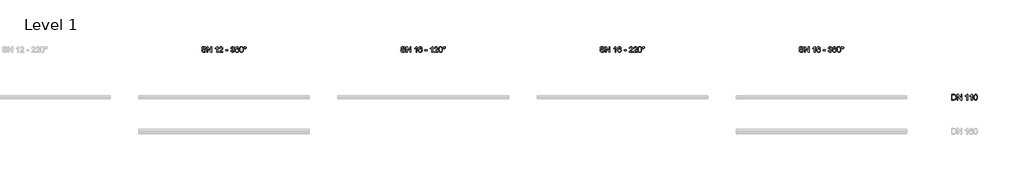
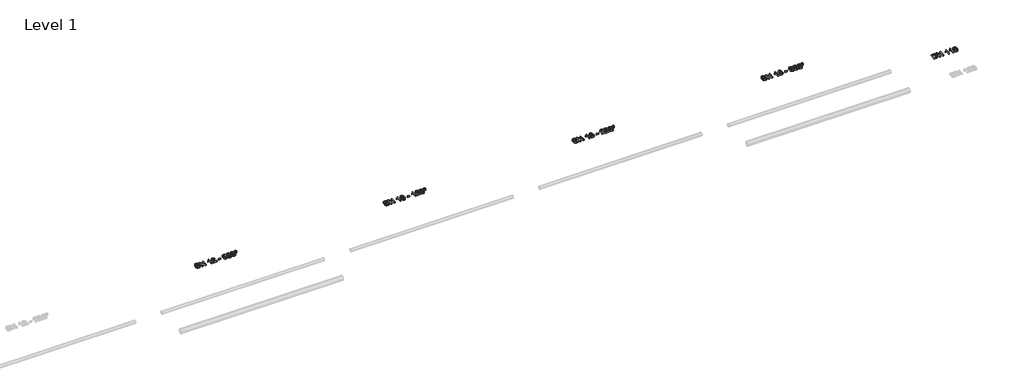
# One storey, part 9 of 9: 5 proxies.
"""IFC4 building model written with IfcOpenShell, lengths in millimetres."""

from ifc_helpers import new_model, si_unit, origin, origin_with_axes, place, context, project, spatial, polyline, outline, extrude, element, save

model = new_model("IFC4")

# Units and contexts
model_context = context("Model", 3, world=origin())
ifc_project = project(units=[si_unit("LENGTHUNIT", "METRE", prefix="MILLI")], contexts=[model_context])

# Site, building, storey
site = spatial("IfcSite", under=ifc_project)
building = spatial("IfcBuilding", under=site)
storey = spatial("IfcBuildingStorey", under=building, Name="Level 1", Elevation=0.0)

# Proxies
placement = place(None, origin())
element("IfcBuildingElementProxy", 1, Name="200mm Arial", ObjectType="200mm Arial", at=placement, inside=storey, context=model_context, shape_type="SweptSolid", body=[
    extrude(outline(polyline([(69180.9483219, 2231.0128426), (69206.0623994, 2231.0128426), (69214.1558033, 2205.8742396), (69222.2859954, 2196.983758), (69233.9233292, 2189.9817374), (69248.1480997, 2185.4383947), (69264.0406019, 2183.9239472), (69290.2828509, 2188.5102094), (69307.2299481, 2201.1162991), (69312.797229, 2217.9652945), (69308.6278997, 2233.6370675), (69302.2758039, 2239.8358791), (69291.5581751, 2245.0414093), (69254.9907048, 2254.6308667), (69215.6273313, 2267.0162272), (69203.1254748, 2275.4652503), (69194.2656501, 2285.7046325), (69188.9865435, 2297.5136446), (69187.2268413, 2310.6715573), (69189.4034764, 2325.3807057), (69195.9333818, 2339.0965728), (69206.6448793, 2350.7216438), (69221.3662904, 2359.1584042), (69239.0368889, 2364.2903581), (69258.5959483, 2366.0010093), (69279.7859513, 2364.2106503), (69298.3272038, 2358.8395732), (69313.5575184, 2349.9981425), (69324.8147075, 2337.796723), (69331.9393554, 2322.9956041), (69334.7720468, 2306.3550752), (69309.6579693, 2306.3550752), (69305.0471816, 2321.3401351), (69295.4331988, 2332.1558658), (69280.4113507, 2338.7041653), (69259.576967, 2340.8869318), (69238.252074, 2338.7286908), (69223.6226333, 2332.2539676), (69215.1613474, 2322.725824), (69212.3409188, 2311.4073212), (69214.3397443, 2301.7565502), (69220.3362208, 2293.9942401), (69234.5119404, 2287.0535332), (69261.3428006, 2279.9656734), (69305.7829456, 2267.3595837), (69320.0996866, 2258.2483729), (69330.0876827, 2247.0034466), (69335.9554006, 2233.7474321), (69337.9113065, 2218.6029566), (69335.661095, 2203.121256), (69328.9104604, 2188.5592603), (69317.9353142, 2176.026747), (69303.0115679, 2166.6334934), (69285.0650579, 2160.7657756), (69265.0216205, 2158.8098696), (69240.4164464, 2160.9190598), (69220.1645426, 2167.2466301), (69204.0329171, 2177.8171061), (69191.788578, 2192.6550132), (69183.9281661, 2210.7302819), (69180.9483219, 2231.0128426)])), origin_with_axes(), (0.0, 0.0, 1.0), 50.0),
    extrude(outline(polyline([(69375.5824228, 2161.9491293), (69375.5824228, 2362.8617496), (69402.4623339, 2362.8617496), (69507.4313299, 2203.6914731), (69507.4313299, 2362.8617496), (69532.5454074, 2362.8617496), (69532.5454074, 2161.9491293), (69505.6654963, 2161.9491293), (69400.6965003, 2321.1684569), (69400.6965003, 2161.9491293), (69375.5824228, 2161.9491293)])), origin_with_axes(), (0.0, 0.0, 1.0), 50.0),
    extrude(outline(polyline([(69739.7365471, 2161.9491293), (69714.6224696, 2161.9491293), (69714.6224696, 2318.5197065), (69690.8327672, 2301.5726092), (69664.3943145, 2288.8929431), (69664.3943145, 2312.6335946), (69701.2070395, 2336.1289913), (69714.6776519, 2349.7038369), (69723.5497393, 2362.8617496), (69739.7365471, 2362.8617496), (69739.7365471, 2161.9491293)])), origin_with_axes(), (0.0, 0.0, 1.0), 50.0),
    extrude(outline(polyline([(69928.0921286, 2187.0632069), (69928.0921286, 2161.9491293), (69796.2432216, 2161.9491293), (69798.9410229, 2179.2641086), (69814.1958629, 2205.9232905), (69845.6375108, 2235.0350191), (69888.9985353, 2276.8754646), (69897.1287274, 2291.2964388), (69899.8387914, 2305.3250056), (69897.2820115, 2317.9004385), (69889.6116719, 2328.3544185), (69877.821054, 2335.3993587), (69862.9034391, 2337.7476721), (69847.2377975, 2335.454541), (69835.0670348, 2328.5751477), (69827.2127542, 2317.6490524), (69824.4965588, 2303.2158155), (69799.3824813, 2306.3550752), (69805.4709283, 2330.6475496), (69818.6349723, 2348.3917245), (69838.1879004, 2359.2442434), (69863.4429993, 2362.8617496), (69888.8820393, 2358.8395732), (69908.3981792, 2346.7730437), (69920.8141965, 2328.746826), (69924.9528689, 2306.8455845), (69920.4892341, 2283.0313567), (69905.6513269, 2258.4077885), (69869.6724678, 2223.9985592), (69840.7814684, 2199.8409748), (69829.450703, 2187.0632069), (69928.0921286, 2187.0632069)])), origin_with_axes(), (0.0, 0.0, 1.0), 50.0),
    extrude(outline(polyline([(70025.4091791, 2221.5950635), (70025.4091791, 2246.709141), (70103.8906714, 2246.709141), (70103.8906714, 2221.5950635), (70025.4091791, 2221.5950635)])), origin_with_axes(), (0.0, 0.0, 1.0), 50.0),
    extrude(outline(polyline([(70204.3469815, 2215.3165441), (70229.4610591, 2218.4558038), (70235.0835222, 2202.6736662), (70243.3179476, 2192.0173511), (70254.5690053, 2185.9472982), (70269.2413655, 2183.9239472), (70286.4582429, 2186.7075876), (70299.7510456, 2195.0585089), (70308.2491197, 2207.5174458), (70311.0818111, 2222.6251331), (70308.2736452, 2236.9663995), (70299.8491475, 2248.5976019), (70287.095905, 2256.3047297), (70271.3015047, 2258.8737723), (70253.6922198, 2256.1269201), (70256.488123, 2281.2409976), (70260.5102995, 2280.946692), (70275.5566731, 2282.7493138), (70289.0088914, 2288.1571792), (70298.5002468, 2297.3051781), (70301.664032, 2310.3282007), (70299.3709009, 2321.1745882), (70292.4915076, 2329.9730993), (70281.994608, 2335.8040289), (70268.848958, 2337.7476721), (70255.6787826, 2335.7856348), (70244.9121029, 2329.8995229), (70237.0516909, 2320.0893363), (70232.6003188, 2306.3550752), (70207.4862412, 2309.4943349), (70214.8806693, 2332.0455012), (70228.038582, 2348.8822338), (70246.0402743, 2359.3668707), (70267.9660412, 2362.8617496), (70283.7543102, 2361.1388356), (70298.2549922, 2355.9700936), (70310.4809372, 2347.815376), (70319.4449951, 2337.1345354), (70324.9448309, 2324.8288827), (70326.7781095, 2311.7997287), (70325.0368014, 2299.6596229), (70319.8128771, 2288.6476885), (70311.1799129, 2279.2666976), (70299.2114854, 2272.0194223), (70314.9323093, 2265.6673265), (70326.5819058, 2254.8515959), (70333.7923929, 2240.1608415), (70336.1958886, 2222.1836747), (70331.3888972, 2197.7072593), (70316.967923, 2177.2530203), (70295.2015716, 2163.4206573), (70268.3584487, 2158.8098696), (70244.078237, 2162.746207), (70224.3107111, 2174.555219), (70210.5641873, 2192.618225), (70204.3469815, 2215.3165441)])), origin_with_axes(), (0.0, 0.0, 1.0), 50.0),
    extrude(outline(polyline([(70486.8803538, 2309.4943349), (70461.7662763, 2306.3550752), (70452.2503954, 2327.2998234), (70440.8583162, 2335.1357099), (70427.0872669, 2337.7476721), (70404.425736, 2331.6653564), (70394.9895628, 2322.057505), (70387.282435, 2308.8321473), (70382.0769048, 2290.1253478), (70380.1455243, 2264.0731712), (70390.2193596, 2275.8270009), (70402.2920204, 2284.1104772), (70415.6890564, 2289.0217018), (70429.7360173, 2290.6587767), (70452.9371084, 2286.1828791), (70472.4103287, 2272.7551863), (70485.6172923, 2252.2396337), (70490.0196135, 2226.5001568), (70487.9472116, 2208.5168586), (70481.7300059, 2191.8456728), (70471.8830312, 2177.7067415), (70458.9213222, 2167.3202065), (70443.4334902, 2160.9374539), (70426.0081464, 2158.8098696), (70397.5156858, 2164.4507269), (70374.8234981, 2181.3732987), (70366.1644756, 2194.4821604), (70359.9794596, 2211.2453167), (70355.0314468, 2255.7345126), (70360.5251512, 2305.7542013), (70367.3922818, 2324.8319484), (70377.0062646, 2339.9549641), (70387.4265221, 2349.9766828), (70399.50838, 2357.1350532), (70428.6568967, 2362.8617496), (70450.6930282, 2359.3178198), (70468.3391013, 2348.6860301), (70480.6999363, 2331.8002465), (70486.8803538, 2309.4943349)]), holes=[polyline([(70380.1455243, 2226.8925642), (70385.9580598, 2205.1384756), (70401.4091036, 2189.3440752), (70424.0461091, 2183.9239472), (70440.6191929, 2186.7321131), (70453.6483469, 2195.1566108), (70462.0912387, 2208.4003626), (70464.905536, 2225.6662909), (70462.1280269, 2242.2393748), (70453.7954997, 2254.8761213), (70440.5456165, 2262.8775547), (70423.0160395, 2265.5446992), (70406.4674811, 2262.8775547), (70392.6289867, 2254.8761213), (70383.2663899, 2242.5459431), (70380.1455243, 2226.8925642)])]), origin_with_axes(), (0.0, 0.0, 1.0), 50.0),
    extrude(outline(polyline([(70511.9944314, 2260.7867587), (70513.8399727, 2292.9457765), (70519.3765967, 2318.5932829), (70528.5491212, 2338.1216855), (70541.3023637, 2351.9233917), (70557.7282947, 2360.1271601), (70577.9188849, 2362.8617496), (70593.3944542, 2361.2430689), (70607.2513427, 2356.3870265), (70618.8396255, 2348.483695), (70627.5093779, 2337.7231466), (70639.2816017, 2307.9982814), (70643.8433384, 2260.7867587), (70642.0161912, 2228.811682), (70636.5347495, 2203.2254892), (70627.4174074, 2183.6786925), (70614.682559, 2169.821804), (70598.2198397, 2161.5628532), (70577.9188849, 2158.8098696), (70551.8237887, 2163.5923356), (70532.0072119, 2177.9397334), (70523.2516204, 2193.0688805), (70516.9976265, 2211.919767), (70511.9944314, 2260.7867587)]), holes=[polyline([(70537.1085089, 2260.8358096), (70540.0515649, 2221.3314147), (70548.8807328, 2198.4675487), (70562.0263827, 2187.5598476), (70577.9188849, 2183.9239472), (70593.8113871, 2187.5721103), (70606.9570371, 2198.5165997), (70615.7862049, 2221.3927284), (70618.7292609, 2260.8358096), (70615.8843068, 2299.4511564), (70607.3494445, 2322.492832), (70594.22832, 2333.9339621), (70577.6245793, 2337.7476721), (70561.9037554, 2334.3876832), (70549.2731402, 2324.3077165), (70540.1496667, 2299.8313011), (70537.1085089, 2260.8358096)])]), origin_with_axes(), (0.0, 0.0, 1.0), 50.0),
    extrude(outline(polyline([(70672.0966757, 2328.378944), (70674.861922, 2342.8612318), (70683.157661, 2355.0136004), (70695.3284237, 2363.2541571), (70709.7187411, 2366.0010093), (70724.2746053, 2363.2541571), (70736.4514994, 2355.0136004), (70744.6920561, 2342.8612318), (70747.4389083, 2328.378944), (70744.673662, 2313.9150502), (70736.377923, 2301.719762), (70724.1826348, 2293.4240231), (70709.7187411, 2290.6587767), (70695.3284237, 2293.405629), (70683.157661, 2301.6461856), (70674.861922, 2313.8230797), (70672.0966757, 2328.378944)]), holes=[polyline([(70687.7929741, 2328.329893), (70689.4055236, 2319.8808699), (70694.2431718, 2312.7807474), (70701.3616884, 2307.9614932), (70709.8168429, 2306.3550752), (70718.198421, 2307.9614932), (70725.2924122, 2312.7807474), (70730.1300604, 2319.8808699), (70731.7426098, 2328.329893), (70730.1300604, 2336.7789162), (70725.2924122, 2343.8790387), (70718.198421, 2348.6982928), (70709.8168429, 2350.3047109), (70701.3616884, 2348.6982928), (70694.2431718, 2343.8790387), (70689.4055236, 2336.7789162), (70687.7929741, 2328.329893)])]), origin_with_axes(), (0.0, 0.0, 1.0), 50.0),
])
element("IfcBuildingElementProxy", 2, Name="200mm Arial", ObjectType="200mm Arial", at=placement, inside=storey, context=model_context, shape_type="SweptSolid", body=[
    extrude(outline(polyline([(76180.9483219, 2231.0128426), (76206.0623994, 2231.0128426), (76214.1558033, 2205.8742396), (76222.2859954, 2196.983758), (76233.9233292, 2189.9817374), (76248.1480997, 2185.4383947), (76264.0406019, 2183.9239472), (76290.2828509, 2188.5102094), (76307.2299481, 2201.1162991), (76312.797229, 2217.9652945), (76308.6278997, 2233.6370675), (76302.2758039, 2239.8358791), (76291.5581751, 2245.0414093), (76254.9907048, 2254.6308667), (76215.6273313, 2267.0162272), (76203.1254748, 2275.4652503), (76194.2656501, 2285.7046325), (76188.9865435, 2297.5136446), (76187.2268413, 2310.6715573), (76189.4034764, 2325.3807057), (76195.9333818, 2339.0965728), (76206.6448793, 2350.7216438), (76221.3662904, 2359.1584042), (76239.0368889, 2364.2903581), (76258.5959483, 2366.0010093), (76279.7859513, 2364.2106503), (76298.3272038, 2358.8395732), (76313.5575184, 2349.9981425), (76324.8147075, 2337.796723), (76331.9393554, 2322.9956041), (76334.7720468, 2306.3550752), (76309.6579693, 2306.3550752), (76305.0471816, 2321.3401351), (76295.4331988, 2332.1558658), (76280.4113507, 2338.7041653), (76259.576967, 2340.8869318), (76238.252074, 2338.7286908), (76223.6226333, 2332.2539676), (76215.1613474, 2322.725824), (76212.3409188, 2311.4073212), (76214.3397443, 2301.7565502), (76220.3362208, 2293.9942401), (76234.5119404, 2287.0535332), (76261.3428006, 2279.9656734), (76305.7829456, 2267.3595837), (76320.0996866, 2258.2483729), (76330.0876827, 2247.0034466), (76335.9554006, 2233.7474321), (76337.9113065, 2218.6029566), (76335.661095, 2203.121256), (76328.9104604, 2188.5592603), (76317.9353142, 2176.026747), (76303.0115679, 2166.6334934), (76285.0650579, 2160.7657756), (76265.0216205, 2158.8098696), (76240.4164464, 2160.9190598), (76220.1645426, 2167.2466301), (76204.0329171, 2177.8171061), (76191.788578, 2192.6550132), (76183.9281661, 2210.7302819), (76180.9483219, 2231.0128426)])), origin_with_axes(), (0.0, 0.0, 1.0), 50.0),
    extrude(outline(polyline([(76375.5824228, 2161.9491293), (76375.5824228, 2362.8617496), (76402.4623339, 2362.8617496), (76507.4313299, 2203.6914731), (76507.4313299, 2362.8617496), (76532.5454074, 2362.8617496), (76532.5454074, 2161.9491293), (76505.6654963, 2161.9491293), (76400.6965003, 2321.1684569), (76400.6965003, 2161.9491293), (76375.5824228, 2161.9491293)])), origin_with_axes(), (0.0, 0.0, 1.0), 50.0),
    extrude(outline(polyline([(76739.7365471, 2161.9491293), (76714.6224696, 2161.9491293), (76714.6224696, 2318.5197065), (76690.8327672, 2301.5726092), (76664.3943145, 2288.8929431), (76664.3943145, 2312.6335946), (76701.2070395, 2336.1289913), (76714.6776519, 2349.7038369), (76723.5497393, 2362.8617496), (76739.7365471, 2362.8617496), (76739.7365471, 2161.9491293)])), origin_with_axes(), (0.0, 0.0, 1.0), 50.0),
    extrude(outline(polyline([(76928.0921286, 2309.4943349), (76902.9780511, 2306.3550752), (76893.4621702, 2327.2998234), (76882.070091, 2335.1357099), (76868.2990417, 2337.7476721), (76845.6375108, 2331.6653564), (76836.2013376, 2322.057505), (76828.4942098, 2308.8321473), (76823.2886796, 2290.1253478), (76821.3572991, 2264.0731712), (76831.4311344, 2275.8270009), (76843.5037952, 2284.1104772), (76856.9008312, 2289.0217018), (76870.947792, 2290.6587767), (76894.1488832, 2286.1828791), (76913.6221035, 2272.7551863), (76926.8290671, 2252.2396337), (76931.2313883, 2226.5001568), (76929.1589864, 2208.5168586), (76922.9417807, 2191.8456728), (76913.094806, 2177.7067415), (76900.133097, 2167.3202065), (76884.645265, 2160.9374539), (76867.2199212, 2158.8098696), (76838.7274606, 2164.4507269), (76816.0352729, 2181.3732987), (76807.3762504, 2194.4821604), (76801.1912344, 2211.2453167), (76796.2432216, 2255.7345126), (76801.736926, 2305.7542013), (76808.6040566, 2324.8319484), (76818.2180394, 2339.9549641), (76828.6382969, 2349.9766828), (76840.7201548, 2357.1350532), (76869.8686715, 2362.8617496), (76891.904803, 2359.3178198), (76909.5508761, 2348.6860301), (76921.9117111, 2331.8002465), (76928.0921286, 2309.4943349)]), holes=[polyline([(76821.3572991, 2226.8925642), (76827.1698346, 2205.1384756), (76842.6208784, 2189.3440752), (76865.2578839, 2183.9239472), (76881.8309677, 2186.7321131), (76894.8601217, 2195.1566108), (76903.3030135, 2208.4003626), (76906.1173108, 2225.6662909), (76903.3398017, 2242.2393748), (76895.0072745, 2254.8761213), (76881.7573913, 2262.8775547), (76864.2278143, 2265.5446992), (76847.6792559, 2262.8775547), (76833.8407615, 2254.8761213), (76824.4781647, 2242.5459431), (76821.3572991, 2226.8925642)])]), origin_with_axes(), (0.0, 0.0, 1.0), 50.0),
    extrude(outline(polyline([(77025.4091791, 2221.5950635), (77025.4091791, 2246.709141), (77103.8906714, 2246.709141), (77103.8906714, 2221.5950635), (77025.4091791, 2221.5950635)])), origin_with_axes(), (0.0, 0.0, 1.0), 50.0),
    extrude(outline(polyline([(77298.5247723, 2161.9491293), (77273.4106948, 2161.9491293), (77273.4106948, 2318.5197065), (77249.6209924, 2301.5726092), (77223.1825397, 2288.8929431), (77223.1825397, 2312.6335946), (77259.9952647, 2336.1289913), (77273.4658771, 2349.7038369), (77282.3379645, 2362.8617496), (77298.5247723, 2362.8617496), (77298.5247723, 2161.9491293)])), origin_with_axes(), (0.0, 0.0, 1.0), 50.0),
    extrude(outline(polyline([(77486.8803538, 2187.0632069), (77486.8803538, 2161.9491293), (77355.0314468, 2161.9491293), (77357.7292481, 2179.2641086), (77372.9840881, 2205.9232905), (77404.425736, 2235.0350191), (77447.7867605, 2276.8754646), (77455.9169526, 2291.2964388), (77458.6270166, 2305.3250056), (77456.0702367, 2317.9004385), (77448.3998971, 2328.3544185), (77436.6092792, 2335.3993587), (77421.6916643, 2337.7476721), (77406.0260227, 2335.454541), (77393.85526, 2328.5751477), (77386.0009794, 2317.6490524), (77383.284784, 2303.2158155), (77358.1707065, 2306.3550752), (77364.2591535, 2330.6475496), (77377.4231975, 2348.3917245), (77396.9761256, 2359.2442434), (77422.2312246, 2362.8617496), (77447.6702645, 2358.8395732), (77467.1864044, 2346.7730437), (77479.6024217, 2328.746826), (77483.7410941, 2306.8455845), (77479.2774593, 2283.0313567), (77464.4395521, 2258.4077885), (77428.460693, 2223.9985592), (77399.5696937, 2199.8409748), (77388.2389282, 2187.0632069), (77486.8803538, 2187.0632069)])), origin_with_axes(), (0.0, 0.0, 1.0), 50.0),
    extrude(outline(polyline([(77511.9944314, 2260.7867587), (77513.8399727, 2292.9457765), (77519.3765967, 2318.5932829), (77528.5491212, 2338.1216855), (77541.3023637, 2351.9233917), (77557.7282947, 2360.1271601), (77577.9188849, 2362.8617496), (77593.3944542, 2361.2430689), (77607.2513427, 2356.3870265), (77618.8396255, 2348.483695), (77627.5093779, 2337.7231466), (77639.2816017, 2307.9982814), (77643.8433384, 2260.7867587), (77642.0161912, 2228.811682), (77636.5347495, 2203.2254892), (77627.4174074, 2183.6786925), (77614.682559, 2169.821804), (77598.2198397, 2161.5628532), (77577.9188849, 2158.8098696), (77551.8237887, 2163.5923356), (77532.0072119, 2177.9397334), (77523.2516204, 2193.0688805), (77516.9976265, 2211.919767), (77511.9944314, 2260.7867587)]), holes=[polyline([(77537.1085089, 2260.8358096), (77540.0515649, 2221.3314147), (77548.8807328, 2198.4675487), (77562.0263827, 2187.5598476), (77577.9188849, 2183.9239472), (77593.8113871, 2187.5721103), (77606.9570371, 2198.5165997), (77615.7862049, 2221.3927284), (77618.7292609, 2260.8358096), (77615.8843068, 2299.4511564), (77607.3494445, 2322.492832), (77594.22832, 2333.9339621), (77577.6245793, 2337.7476721), (77561.9037554, 2334.3876832), (77549.2731402, 2324.3077165), (77540.1496667, 2299.8313011), (77537.1085089, 2260.8358096)])]), origin_with_axes(), (0.0, 0.0, 1.0), 50.0),
    extrude(outline(polyline([(77672.0966757, 2328.378944), (77674.861922, 2342.8612318), (77683.157661, 2355.0136004), (77695.3284237, 2363.2541571), (77709.7187411, 2366.0010093), (77724.2746053, 2363.2541571), (77736.4514994, 2355.0136004), (77744.6920561, 2342.8612318), (77747.4389083, 2328.378944), (77744.673662, 2313.9150502), (77736.377923, 2301.719762), (77724.1826348, 2293.4240231), (77709.7187411, 2290.6587767), (77695.3284237, 2293.405629), (77683.157661, 2301.6461856), (77674.861922, 2313.8230797), (77672.0966757, 2328.378944)]), holes=[polyline([(77687.7929741, 2328.329893), (77689.4055236, 2319.8808699), (77694.2431718, 2312.7807474), (77701.3616884, 2307.9614932), (77709.8168429, 2306.3550752), (77718.198421, 2307.9614932), (77725.2924122, 2312.7807474), (77730.1300604, 2319.8808699), (77731.7426098, 2328.329893), (77730.1300604, 2336.7789162), (77725.2924122, 2343.8790387), (77718.198421, 2348.6982928), (77709.8168429, 2350.3047109), (77701.3616884, 2348.6982928), (77694.2431718, 2343.8790387), (77689.4055236, 2336.7789162), (77687.7929741, 2328.329893)])]), origin_with_axes(), (0.0, 0.0, 1.0), 50.0),
])
element("IfcBuildingElementProxy", 3, Name="200mm Arial", ObjectType="200mm Arial", at=placement, inside=storey, context=model_context, shape_type="SweptSolid", body=[
    extrude(outline(polyline([(95539.3076926, 486.050427), (95539.3076926, 686.9630473), (95608.6166605, 686.9630473), (95644.4728923, 684.0690423), (95660.4880218, 678.4894987), (95674.0015538, 669.697119), (95687.8952305, 654.393228), (95697.7912562, 635.3614662), (95703.7141563, 612.9697154), (95705.6884563, 587.5858577), (95700.3419047, 547.0452618), (95686.6076435, 517.7863805), (95668.2625947, 499.563959), (95644.2521631, 489.4839923), (95611.9521239, 486.050427), (95539.3076926, 486.050427)]), holes=[polyline([(95564.4217702, 511.1645046), (95608.8619152, 511.1645046), (95641.1864798, 514.7942736), (95659.8258342, 525.0459185), (95668.5507689, 535.9168315), (95675.1051998, 549.9883178), (95679.207084, 567.3216911), (95680.5743788, 587.9782652), (95677.8949716, 615.3486856), (95669.85675, 635.5576699), (95657.9802929, 649.4390838), (95643.7861793, 657.8267933), (95608.1752021, 661.8489698), (95564.4217702, 661.8489698), (95564.4217702, 511.1645046)])]), origin_with_axes(), (0.0, 0.0, 1.0), 50.0),
    extrude(outline(polyline([(95740.2203129, 486.050427), (95740.2203129, 686.9630473), (95767.100224, 686.9630473), (95872.06922, 527.7927708), (95872.06922, 686.9630473), (95897.1832975, 686.9630473), (95897.1832975, 486.050427), (95870.3033864, 486.050427), (95765.3343905, 645.2697546), (95765.3343905, 486.050427), (95740.2203129, 486.050427)])), origin_with_axes(), (0.0, 0.0, 1.0), 50.0),
    extrude(outline(polyline([(96104.3744372, 486.050427), (96079.2603597, 486.050427), (96079.2603597, 642.6210042), (96055.4706573, 625.6739069), (96029.0322046, 612.9942408), (96029.0322046, 636.7348923), (96065.8449296, 660.230289), (96079.315542, 673.8051347), (96088.1876294, 686.9630473), (96104.3744372, 686.9630473), (96104.3744372, 486.050427)])), origin_with_axes(), (0.0, 0.0, 1.0), 50.0),
    extrude(outline(polyline([(96258.1981621, 486.050427), (96233.0840846, 486.050427), (96233.0840846, 642.6210042), (96209.2943822, 625.6739069), (96182.8559295, 612.9942408), (96182.8559295, 636.7348923), (96219.6686545, 660.230289), (96233.1392669, 673.8051347), (96242.0113543, 686.9630473), (96258.1981621, 686.9630473), (96258.1981621, 486.050427)])), origin_with_axes(), (0.0, 0.0, 1.0), 50.0),
    extrude(outline(polyline([(96317.8440963, 584.8880564), (96319.6896376, 617.0470742), (96325.2262617, 642.6945806), (96334.3987861, 662.2229832), (96347.1520286, 676.0246894), (96363.5779597, 684.2284578), (96383.7685498, 686.9630473), (96399.2441191, 685.3443666), (96413.1010076, 680.4883242), (96424.6892904, 672.5849927), (96433.3590428, 661.8244443), (96445.1312666, 632.0995791), (96449.6930034, 584.8880564), (96447.8658561, 552.9129797), (96442.3844144, 527.3267869), (96433.2670723, 507.7799902), (96420.5322239, 493.9231017), (96404.0695046, 485.664151), (96383.7685498, 482.9111674), (96357.6734536, 487.6936333), (96337.8568768, 502.0410311), (96329.1012853, 517.1701782), (96322.8472914, 536.0210647), (96317.8440963, 584.8880564)]), holes=[polyline([(96342.9581738, 584.9371073), (96345.9012298, 545.4327124), (96354.7303977, 522.5688464), (96367.8760476, 511.6611453), (96383.7685498, 508.0252449), (96399.661052, 511.673408), (96412.806702, 522.6178974), (96421.6358699, 545.4940261), (96424.5789258, 584.9371073), (96421.7339717, 623.5524541), (96413.1991094, 646.5941297), (96400.0779849, 658.0352598), (96383.4742442, 661.8489698), (96367.7534203, 658.4889809), (96355.1228051, 648.4090143), (96345.9993317, 623.9325988), (96342.9581738, 584.9371073)])]), origin_with_axes(), (0.0, 0.0, 1.0), 50.0),
])
element("IfcBuildingElementProxy", 4, Name="200mm Arial", ObjectType="200mm Arial", at=placement, inside=storey, context=model_context, shape_type="SweptSolid", body=[
    extrude(outline(polyline([(83180.9483219, 2231.0128426), (83206.0623994, 2231.0128426), (83214.1558033, 2205.8742396), (83222.2859954, 2196.983758), (83233.9233292, 2189.9817374), (83248.1480997, 2185.4383947), (83264.0406019, 2183.9239472), (83290.2828509, 2188.5102094), (83307.2299481, 2201.1162991), (83312.797229, 2217.9652945), (83308.6278997, 2233.6370675), (83302.2758039, 2239.8358791), (83291.5581751, 2245.0414093), (83254.9907048, 2254.6308667), (83215.6273313, 2267.0162272), (83203.1254748, 2275.4652503), (83194.2656501, 2285.7046325), (83188.9865435, 2297.5136446), (83187.2268413, 2310.6715573), (83189.4034764, 2325.3807057), (83195.9333818, 2339.0965728), (83206.6448793, 2350.7216438), (83221.3662904, 2359.1584042), (83239.0368889, 2364.2903581), (83258.5959483, 2366.0010093), (83279.7859513, 2364.2106503), (83298.3272038, 2358.8395732), (83313.5575184, 2349.9981425), (83324.8147075, 2337.796723), (83331.9393554, 2322.9956041), (83334.7720468, 2306.3550752), (83309.6579693, 2306.3550752), (83305.0471816, 2321.3401351), (83295.4331988, 2332.1558658), (83280.4113507, 2338.7041653), (83259.576967, 2340.8869318), (83238.252074, 2338.7286908), (83223.6226333, 2332.2539676), (83215.1613474, 2322.725824), (83212.3409188, 2311.4073212), (83214.3397443, 2301.7565502), (83220.3362208, 2293.9942401), (83234.5119404, 2287.0535332), (83261.3428006, 2279.9656734), (83305.7829456, 2267.3595837), (83320.0996866, 2258.2483729), (83330.0876827, 2247.0034466), (83335.9554006, 2233.7474321), (83337.9113065, 2218.6029566), (83335.661095, 2203.121256), (83328.9104604, 2188.5592603), (83317.9353142, 2176.026747), (83303.0115679, 2166.6334934), (83285.0650579, 2160.7657756), (83265.0216205, 2158.8098696), (83240.4164464, 2160.9190598), (83220.1645426, 2167.2466301), (83204.0329171, 2177.8171061), (83191.788578, 2192.6550132), (83183.9281661, 2210.7302819), (83180.9483219, 2231.0128426)])), origin_with_axes(), (0.0, 0.0, 1.0), 50.0),
    extrude(outline(polyline([(83375.5824228, 2161.9491293), (83375.5824228, 2362.8617496), (83402.4623339, 2362.8617496), (83507.4313299, 2203.6914731), (83507.4313299, 2362.8617496), (83532.5454074, 2362.8617496), (83532.5454074, 2161.9491293), (83505.6654963, 2161.9491293), (83400.6965003, 2321.1684569), (83400.6965003, 2161.9491293), (83375.5824228, 2161.9491293)])), origin_with_axes(), (0.0, 0.0, 1.0), 50.0),
    extrude(outline(polyline([(83739.7365471, 2161.9491293), (83714.6224696, 2161.9491293), (83714.6224696, 2318.5197065), (83690.8327672, 2301.5726092), (83664.3943145, 2288.8929431), (83664.3943145, 2312.6335946), (83701.2070395, 2336.1289913), (83714.6776519, 2349.7038369), (83723.5497393, 2362.8617496), (83739.7365471, 2362.8617496), (83739.7365471, 2161.9491293)])), origin_with_axes(), (0.0, 0.0, 1.0), 50.0),
    extrude(outline(polyline([(83928.0921286, 2309.4943349), (83902.9780511, 2306.3550752), (83893.4621702, 2327.2998234), (83882.070091, 2335.1357099), (83868.2990417, 2337.7476721), (83845.6375108, 2331.6653564), (83836.2013376, 2322.057505), (83828.4942098, 2308.8321473), (83823.2886796, 2290.1253478), (83821.3572991, 2264.0731712), (83831.4311344, 2275.8270009), (83843.5037952, 2284.1104772), (83856.9008312, 2289.0217018), (83870.947792, 2290.6587767), (83894.1488832, 2286.1828791), (83913.6221035, 2272.7551863), (83926.8290671, 2252.2396337), (83931.2313883, 2226.5001568), (83929.1589864, 2208.5168586), (83922.9417807, 2191.8456728), (83913.094806, 2177.7067415), (83900.133097, 2167.3202065), (83884.645265, 2160.9374539), (83867.2199212, 2158.8098696), (83838.7274606, 2164.4507269), (83816.0352729, 2181.3732987), (83807.3762504, 2194.4821604), (83801.1912344, 2211.2453167), (83796.2432216, 2255.7345126), (83801.736926, 2305.7542013), (83808.6040566, 2324.8319484), (83818.2180394, 2339.9549641), (83828.6382969, 2349.9766828), (83840.7201548, 2357.1350532), (83869.8686715, 2362.8617496), (83891.904803, 2359.3178198), (83909.5508761, 2348.6860301), (83921.9117111, 2331.8002465), (83928.0921286, 2309.4943349)]), holes=[polyline([(83821.3572991, 2226.8925642), (83827.1698346, 2205.1384756), (83842.6208784, 2189.3440752), (83865.2578839, 2183.9239472), (83881.8309677, 2186.7321131), (83894.8601217, 2195.1566108), (83903.3030135, 2208.4003626), (83906.1173108, 2225.6662909), (83903.3398017, 2242.2393748), (83895.0072745, 2254.8761213), (83881.7573913, 2262.8775547), (83864.2278143, 2265.5446992), (83847.6792559, 2262.8775547), (83833.8407615, 2254.8761213), (83824.4781647, 2242.5459431), (83821.3572991, 2226.8925642)])]), origin_with_axes(), (0.0, 0.0, 1.0), 50.0),
    extrude(outline(polyline([(84025.4091791, 2221.5950635), (84025.4091791, 2246.709141), (84103.8906714, 2246.709141), (84103.8906714, 2221.5950635), (84025.4091791, 2221.5950635)])), origin_with_axes(), (0.0, 0.0, 1.0), 50.0),
    extrude(outline(polyline([(84333.0566289, 2187.0632069), (84333.0566289, 2161.9491293), (84201.2077219, 2161.9491293), (84203.9055231, 2179.2641086), (84219.1603632, 2205.9232905), (84250.6020111, 2235.0350191), (84293.9630356, 2276.8754646), (84302.0932277, 2291.2964388), (84304.8032917, 2305.3250056), (84302.2465118, 2317.9004385), (84294.5761722, 2328.3544185), (84282.7855543, 2335.3993587), (84267.8679394, 2337.7476721), (84252.2022977, 2335.454541), (84240.0315351, 2328.5751477), (84232.1772545, 2317.6490524), (84229.4610591, 2303.2158155), (84204.3469815, 2306.3550752), (84210.4354286, 2330.6475496), (84223.5994726, 2348.3917245), (84243.1524007, 2359.2442434), (84268.4074996, 2362.8617496), (84293.8465396, 2358.8395732), (84313.3626794, 2346.7730437), (84325.7786968, 2328.746826), (84329.9173692, 2306.8455845), (84325.4537344, 2283.0313567), (84310.6158272, 2258.4077885), (84274.6369681, 2223.9985592), (84245.7459687, 2199.8409748), (84234.4152033, 2187.0632069), (84333.0566289, 2187.0632069)])), origin_with_axes(), (0.0, 0.0, 1.0), 50.0),
    extrude(outline(polyline([(84486.8803538, 2187.0632069), (84486.8803538, 2161.9491293), (84355.0314468, 2161.9491293), (84357.7292481, 2179.2641086), (84372.9840881, 2205.9232905), (84404.425736, 2235.0350191), (84447.7867605, 2276.8754646), (84455.9169526, 2291.2964388), (84458.6270166, 2305.3250056), (84456.0702367, 2317.9004385), (84448.3998971, 2328.3544185), (84436.6092792, 2335.3993587), (84421.6916643, 2337.7476721), (84406.0260227, 2335.454541), (84393.85526, 2328.5751477), (84386.0009794, 2317.6490524), (84383.284784, 2303.2158155), (84358.1707065, 2306.3550752), (84364.2591535, 2330.6475496), (84377.4231975, 2348.3917245), (84396.9761256, 2359.2442434), (84422.2312246, 2362.8617496), (84447.6702645, 2358.8395732), (84467.1864044, 2346.7730437), (84479.6024217, 2328.746826), (84483.7410941, 2306.8455845), (84479.2774593, 2283.0313567), (84464.4395521, 2258.4077885), (84428.460693, 2223.9985592), (84399.5696937, 2199.8409748), (84388.2389282, 2187.0632069), (84486.8803538, 2187.0632069)])), origin_with_axes(), (0.0, 0.0, 1.0), 50.0),
    extrude(outline(polyline([(84511.9944314, 2260.7867587), (84513.8399727, 2292.9457765), (84519.3765967, 2318.5932829), (84528.5491212, 2338.1216855), (84541.3023637, 2351.9233917), (84557.7282947, 2360.1271601), (84577.9188849, 2362.8617496), (84593.3944542, 2361.2430689), (84607.2513427, 2356.3870265), (84618.8396255, 2348.483695), (84627.5093779, 2337.7231466), (84639.2816017, 2307.9982814), (84643.8433384, 2260.7867587), (84642.0161912, 2228.811682), (84636.5347495, 2203.2254892), (84627.4174074, 2183.6786925), (84614.682559, 2169.821804), (84598.2198397, 2161.5628532), (84577.9188849, 2158.8098696), (84551.8237887, 2163.5923356), (84532.0072119, 2177.9397334), (84523.2516204, 2193.0688805), (84516.9976265, 2211.919767), (84511.9944314, 2260.7867587)]), holes=[polyline([(84537.1085089, 2260.8358096), (84540.0515649, 2221.3314147), (84548.8807328, 2198.4675487), (84562.0263827, 2187.5598476), (84577.9188849, 2183.9239472), (84593.8113871, 2187.5721103), (84606.9570371, 2198.5165997), (84615.7862049, 2221.3927284), (84618.7292609, 2260.8358096), (84615.8843068, 2299.4511564), (84607.3494445, 2322.492832), (84594.22832, 2333.9339621), (84577.6245793, 2337.7476721), (84561.9037554, 2334.3876832), (84549.2731402, 2324.3077165), (84540.1496667, 2299.8313011), (84537.1085089, 2260.8358096)])]), origin_with_axes(), (0.0, 0.0, 1.0), 50.0),
    extrude(outline(polyline([(84672.0966757, 2328.378944), (84674.861922, 2342.8612318), (84683.157661, 2355.0136004), (84695.3284237, 2363.2541571), (84709.7187411, 2366.0010093), (84724.2746053, 2363.2541571), (84736.4514994, 2355.0136004), (84744.6920561, 2342.8612318), (84747.4389083, 2328.378944), (84744.673662, 2313.9150502), (84736.377923, 2301.719762), (84724.1826348, 2293.4240231), (84709.7187411, 2290.6587767), (84695.3284237, 2293.405629), (84683.157661, 2301.6461856), (84674.861922, 2313.8230797), (84672.0966757, 2328.378944)]), holes=[polyline([(84687.7929741, 2328.329893), (84689.4055236, 2319.8808699), (84694.2431718, 2312.7807474), (84701.3616884, 2307.9614932), (84709.8168429, 2306.3550752), (84718.198421, 2307.9614932), (84725.2924122, 2312.7807474), (84730.1300604, 2319.8808699), (84731.7426098, 2328.329893), (84730.1300604, 2336.7789162), (84725.2924122, 2343.8790387), (84718.198421, 2348.6982928), (84709.8168429, 2350.3047109), (84701.3616884, 2348.6982928), (84694.2431718, 2343.8790387), (84689.4055236, 2336.7789162), (84687.7929741, 2328.329893)])]), origin_with_axes(), (0.0, 0.0, 1.0), 50.0),
])
element("IfcBuildingElementProxy", 5, Name="200mm Arial", ObjectType="200mm Arial", at=placement, inside=storey, context=model_context, shape_type="SweptSolid", body=[
    extrude(outline(polyline([(90180.9483219, 2231.0128426), (90206.0623994, 2231.0128426), (90214.1558033, 2205.8742396), (90222.2859954, 2196.983758), (90233.9233292, 2189.9817374), (90248.1480997, 2185.4383947), (90264.0406019, 2183.9239472), (90290.2828509, 2188.5102094), (90307.2299481, 2201.1162991), (90312.797229, 2217.9652945), (90308.6278997, 2233.6370675), (90302.2758039, 2239.8358791), (90291.5581751, 2245.0414093), (90254.9907048, 2254.6308667), (90215.6273313, 2267.0162272), (90203.1254748, 2275.4652503), (90194.2656501, 2285.7046325), (90188.9865435, 2297.5136446), (90187.2268413, 2310.6715573), (90189.4034764, 2325.3807057), (90195.9333818, 2339.0965728), (90206.6448793, 2350.7216438), (90221.3662904, 2359.1584042), (90239.0368889, 2364.2903581), (90258.5959483, 2366.0010093), (90279.7859513, 2364.2106503), (90298.3272038, 2358.8395732), (90313.5575184, 2349.9981425), (90324.8147075, 2337.796723), (90331.9393554, 2322.9956041), (90334.7720468, 2306.3550752), (90309.6579693, 2306.3550752), (90305.0471816, 2321.3401351), (90295.4331988, 2332.1558658), (90280.4113507, 2338.7041653), (90259.576967, 2340.8869318), (90238.252074, 2338.7286908), (90223.6226333, 2332.2539676), (90215.1613474, 2322.725824), (90212.3409188, 2311.4073212), (90214.3397443, 2301.7565502), (90220.3362208, 2293.9942401), (90234.5119404, 2287.0535332), (90261.3428006, 2279.9656734), (90305.7829456, 2267.3595837), (90320.0996866, 2258.2483729), (90330.0876827, 2247.0034466), (90335.9554006, 2233.7474321), (90337.9113065, 2218.6029566), (90335.661095, 2203.121256), (90328.9104604, 2188.5592603), (90317.9353142, 2176.026747), (90303.0115679, 2166.6334934), (90285.0650579, 2160.7657756), (90265.0216205, 2158.8098696), (90240.4164464, 2160.9190598), (90220.1645426, 2167.2466301), (90204.0329171, 2177.8171061), (90191.788578, 2192.6550132), (90183.9281661, 2210.7302819), (90180.9483219, 2231.0128426)])), origin_with_axes(), (0.0, 0.0, 1.0), 50.0),
    extrude(outline(polyline([(90375.5824228, 2161.9491293), (90375.5824228, 2362.8617496), (90402.4623339, 2362.8617496), (90507.4313299, 2203.6914731), (90507.4313299, 2362.8617496), (90532.5454074, 2362.8617496), (90532.5454074, 2161.9491293), (90505.6654963, 2161.9491293), (90400.6965003, 2321.1684569), (90400.6965003, 2161.9491293), (90375.5824228, 2161.9491293)])), origin_with_axes(), (0.0, 0.0, 1.0), 50.0),
    extrude(outline(polyline([(90739.7365471, 2161.9491293), (90714.6224696, 2161.9491293), (90714.6224696, 2318.5197065), (90690.8327672, 2301.5726092), (90664.3943145, 2288.8929431), (90664.3943145, 2312.6335946), (90701.2070395, 2336.1289913), (90714.6776519, 2349.7038369), (90723.5497393, 2362.8617496), (90739.7365471, 2362.8617496), (90739.7365471, 2161.9491293)])), origin_with_axes(), (0.0, 0.0, 1.0), 50.0),
    extrude(outline(polyline([(90928.0921286, 2309.4943349), (90902.9780511, 2306.3550752), (90893.4621702, 2327.2998234), (90882.070091, 2335.1357099), (90868.2990417, 2337.7476721), (90845.6375108, 2331.6653564), (90836.2013376, 2322.057505), (90828.4942098, 2308.8321473), (90823.2886796, 2290.1253478), (90821.3572991, 2264.0731712), (90831.4311344, 2275.8270009), (90843.5037952, 2284.1104772), (90856.9008312, 2289.0217018), (90870.947792, 2290.6587767), (90894.1488832, 2286.1828791), (90913.6221035, 2272.7551863), (90926.8290671, 2252.2396337), (90931.2313883, 2226.5001568), (90929.1589864, 2208.5168586), (90922.9417807, 2191.8456728), (90913.094806, 2177.7067415), (90900.133097, 2167.3202065), (90884.645265, 2160.9374539), (90867.2199212, 2158.8098696), (90838.7274606, 2164.4507269), (90816.0352729, 2181.3732987), (90807.3762504, 2194.4821604), (90801.1912344, 2211.2453167), (90796.2432216, 2255.7345126), (90801.736926, 2305.7542013), (90808.6040566, 2324.8319484), (90818.2180394, 2339.9549641), (90828.6382969, 2349.9766828), (90840.7201548, 2357.1350532), (90869.8686715, 2362.8617496), (90891.904803, 2359.3178198), (90909.5508761, 2348.6860301), (90921.9117111, 2331.8002465), (90928.0921286, 2309.4943349)]), holes=[polyline([(90821.3572991, 2226.8925642), (90827.1698346, 2205.1384756), (90842.6208784, 2189.3440752), (90865.2578839, 2183.9239472), (90881.8309677, 2186.7321131), (90894.8601217, 2195.1566108), (90903.3030135, 2208.4003626), (90906.1173108, 2225.6662909), (90903.3398017, 2242.2393748), (90895.0072745, 2254.8761213), (90881.7573913, 2262.8775547), (90864.2278143, 2265.5446992), (90847.6792559, 2262.8775547), (90833.8407615, 2254.8761213), (90824.4781647, 2242.5459431), (90821.3572991, 2226.8925642)])]), origin_with_axes(), (0.0, 0.0, 1.0), 50.0),
    extrude(outline(polyline([(91025.4091791, 2221.5950635), (91025.4091791, 2246.709141), (91103.8906714, 2246.709141), (91103.8906714, 2221.5950635), (91025.4091791, 2221.5950635)])), origin_with_axes(), (0.0, 0.0, 1.0), 50.0),
    extrude(outline(polyline([(91204.3469815, 2215.3165441), (91229.4610591, 2218.4558038), (91235.0835222, 2202.6736662), (91243.3179476, 2192.0173511), (91254.5690053, 2185.9472982), (91269.2413655, 2183.9239472), (91286.4582429, 2186.7075876), (91299.7510456, 2195.0585089), (91308.2491197, 2207.5174458), (91311.0818111, 2222.6251331), (91308.2736452, 2236.9663995), (91299.8491475, 2248.5976019), (91287.095905, 2256.3047297), (91271.3015047, 2258.8737723), (91253.6922198, 2256.1269201), (91256.488123, 2281.2409976), (91260.5102995, 2280.946692), (91275.5566731, 2282.7493138), (91289.0088914, 2288.1571792), (91298.5002468, 2297.3051781), (91301.664032, 2310.3282007), (91299.3709009, 2321.1745882), (91292.4915076, 2329.9730993), (91281.994608, 2335.8040289), (91268.848958, 2337.7476721), (91255.6787826, 2335.7856348), (91244.9121029, 2329.8995229), (91237.0516909, 2320.0893363), (91232.6003188, 2306.3550752), (91207.4862412, 2309.4943349), (91214.8806693, 2332.0455012), (91228.038582, 2348.8822338), (91246.0402743, 2359.3668707), (91267.9660412, 2362.8617496), (91283.7543102, 2361.1388356), (91298.2549922, 2355.9700936), (91310.4809372, 2347.815376), (91319.4449951, 2337.1345354), (91324.9448309, 2324.8288827), (91326.7781095, 2311.7997287), (91325.0368014, 2299.6596229), (91319.8128771, 2288.6476885), (91311.1799129, 2279.2666976), (91299.2114854, 2272.0194223), (91314.9323093, 2265.6673265), (91326.5819058, 2254.8515959), (91333.7923929, 2240.1608415), (91336.1958886, 2222.1836747), (91331.3888972, 2197.7072593), (91316.967923, 2177.2530203), (91295.2015716, 2163.4206573), (91268.3584487, 2158.8098696), (91244.078237, 2162.746207), (91224.3107111, 2174.555219), (91210.5641873, 2192.618225), (91204.3469815, 2215.3165441)])), origin_with_axes(), (0.0, 0.0, 1.0), 50.0),
    extrude(outline(polyline([(91486.8803538, 2309.4943349), (91461.7662763, 2306.3550752), (91452.2503954, 2327.2998234), (91440.8583162, 2335.1357099), (91427.0872669, 2337.7476721), (91404.425736, 2331.6653564), (91394.9895628, 2322.057505), (91387.282435, 2308.8321473), (91382.0769048, 2290.1253478), (91380.1455243, 2264.0731712), (91390.2193596, 2275.8270009), (91402.2920204, 2284.1104772), (91415.6890564, 2289.0217018), (91429.7360173, 2290.6587767), (91452.9371084, 2286.1828791), (91472.4103287, 2272.7551863), (91485.6172923, 2252.2396337), (91490.0196135, 2226.5001568), (91487.9472116, 2208.5168586), (91481.7300059, 2191.8456728), (91471.8830312, 2177.7067415), (91458.9213222, 2167.3202065), (91443.4334902, 2160.9374539), (91426.0081464, 2158.8098696), (91397.5156858, 2164.4507269), (91374.8234981, 2181.3732987), (91366.1644756, 2194.4821604), (91359.9794596, 2211.2453167), (91355.0314468, 2255.7345126), (91360.5251512, 2305.7542013), (91367.3922818, 2324.8319484), (91377.0062646, 2339.9549641), (91387.4265221, 2349.9766828), (91399.50838, 2357.1350532), (91428.6568967, 2362.8617496), (91450.6930282, 2359.3178198), (91468.3391013, 2348.6860301), (91480.6999363, 2331.8002465), (91486.8803538, 2309.4943349)]), holes=[polyline([(91380.1455243, 2226.8925642), (91385.9580598, 2205.1384756), (91401.4091036, 2189.3440752), (91424.0461091, 2183.9239472), (91440.6191929, 2186.7321131), (91453.6483469, 2195.1566108), (91462.0912387, 2208.4003626), (91464.905536, 2225.6662909), (91462.1280269, 2242.2393748), (91453.7954997, 2254.8761213), (91440.5456165, 2262.8775547), (91423.0160395, 2265.5446992), (91406.4674811, 2262.8775547), (91392.6289867, 2254.8761213), (91383.2663899, 2242.5459431), (91380.1455243, 2226.8925642)])]), origin_with_axes(), (0.0, 0.0, 1.0), 50.0),
    extrude(outline(polyline([(91511.9944314, 2260.7867587), (91513.8399727, 2292.9457765), (91519.3765967, 2318.5932829), (91528.5491212, 2338.1216855), (91541.3023637, 2351.9233917), (91557.7282947, 2360.1271601), (91577.9188849, 2362.8617496), (91593.3944542, 2361.2430689), (91607.2513427, 2356.3870265), (91618.8396255, 2348.483695), (91627.5093779, 2337.7231466), (91639.2816017, 2307.9982814), (91643.8433384, 2260.7867587), (91642.0161912, 2228.811682), (91636.5347495, 2203.2254892), (91627.4174074, 2183.6786925), (91614.682559, 2169.821804), (91598.2198397, 2161.5628532), (91577.9188849, 2158.8098696), (91551.8237887, 2163.5923356), (91532.0072119, 2177.9397334), (91523.2516204, 2193.0688805), (91516.9976265, 2211.919767), (91511.9944314, 2260.7867587)]), holes=[polyline([(91537.1085089, 2260.8358096), (91540.0515649, 2221.3314147), (91548.8807328, 2198.4675487), (91562.0263827, 2187.5598476), (91577.9188849, 2183.9239472), (91593.8113871, 2187.5721103), (91606.9570371, 2198.5165997), (91615.7862049, 2221.3927284), (91618.7292609, 2260.8358096), (91615.8843068, 2299.4511564), (91607.3494445, 2322.492832), (91594.22832, 2333.9339621), (91577.6245793, 2337.7476721), (91561.9037554, 2334.3876832), (91549.2731402, 2324.3077165), (91540.1496667, 2299.8313011), (91537.1085089, 2260.8358096)])]), origin_with_axes(), (0.0, 0.0, 1.0), 50.0),
    extrude(outline(polyline([(91672.0966757, 2328.378944), (91674.861922, 2342.8612318), (91683.157661, 2355.0136004), (91695.3284237, 2363.2541571), (91709.7187411, 2366.0010093), (91724.2746053, 2363.2541571), (91736.4514994, 2355.0136004), (91744.6920561, 2342.8612318), (91747.4389083, 2328.378944), (91744.673662, 2313.9150502), (91736.377923, 2301.719762), (91724.1826348, 2293.4240231), (91709.7187411, 2290.6587767), (91695.3284237, 2293.405629), (91683.157661, 2301.6461856), (91674.861922, 2313.8230797), (91672.0966757, 2328.378944)]), holes=[polyline([(91687.7929741, 2328.329893), (91689.4055236, 2319.8808699), (91694.2431718, 2312.7807474), (91701.3616884, 2307.9614932), (91709.8168429, 2306.3550752), (91718.198421, 2307.9614932), (91725.2924122, 2312.7807474), (91730.1300604, 2319.8808699), (91731.7426098, 2328.329893), (91730.1300604, 2336.7789162), (91725.2924122, 2343.8790387), (91718.198421, 2348.6982928), (91709.8168429, 2350.3047109), (91701.3616884, 2348.6982928), (91694.2431718, 2343.8790387), (91689.4055236, 2336.7789162), (91687.7929741, 2328.329893)])]), origin_with_axes(), (0.0, 0.0, 1.0), 50.0),
])

save(model, "model.ifc")
